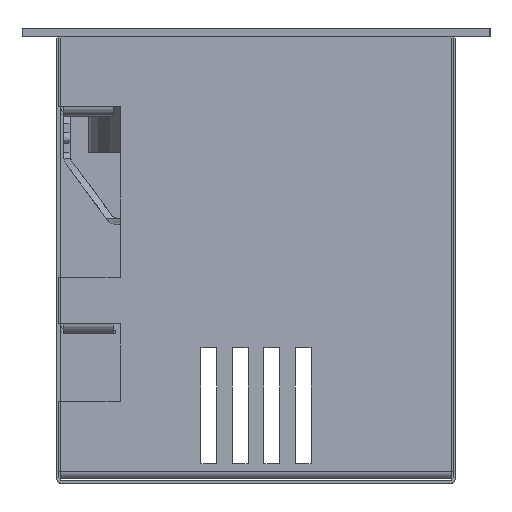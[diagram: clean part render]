
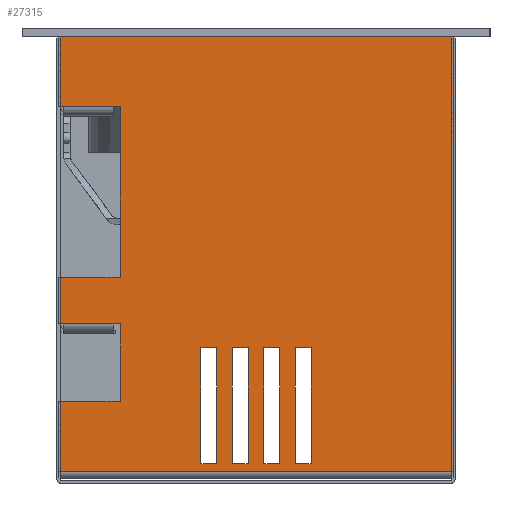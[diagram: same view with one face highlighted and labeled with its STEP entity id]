
A CAD part, left-side view. The second image highlights one B-rep face of the part: STEP entity #27315.
In plain terms, the highlighted planar face has unit normal (-1, 0, 0).
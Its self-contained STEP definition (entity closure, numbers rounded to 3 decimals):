
#264=FACE_BOUND('',#5128,.T.);
#265=FACE_BOUND('',#5129,.T.);
#266=FACE_BOUND('',#5130,.T.);
#267=FACE_BOUND('',#5131,.T.);
#1970=PLANE('',#30135);
#3463=FACE_OUTER_BOUND('',#5127,.T.);
#5127=EDGE_LOOP('',(#24978,#24979,#24980,#24981,#24982,#24983,#24984,#24985,
#24986,#24987,#24988,#24989));
#5128=EDGE_LOOP('',(#24990,#24991,#24992,#24993));
#5129=EDGE_LOOP('',(#24994,#24995,#24996,#24997));
#5130=EDGE_LOOP('',(#24998,#24999,#25000,#25001));
#5131=EDGE_LOOP('',(#25002,#25003,#25004,#25005));
#8367=LINE('',#53390,#10491);
#8369=LINE('',#53396,#10493);
#8370=LINE('',#53398,#10494);
#8371=LINE('',#53400,#10495);
#8372=LINE('',#53402,#10496);
#8373=LINE('',#53404,#10497);
#8374=LINE('',#53406,#10498);
#8375=LINE('',#53408,#10499);
#8376=LINE('',#53410,#10500);
#8377=LINE('',#53412,#10501);
#8378=LINE('',#53414,#10502);
#8379=LINE('',#53415,#10503);
#8380=LINE('',#53418,#10504);
#8381=LINE('',#53420,#10505);
#8382=LINE('',#53422,#10506);
#8383=LINE('',#53423,#10507);
#8384=LINE('',#53426,#10508);
#8385=LINE('',#53428,#10509);
#8386=LINE('',#53430,#10510);
#8387=LINE('',#53431,#10511);
#8388=LINE('',#53434,#10512);
#8389=LINE('',#53436,#10513);
#8390=LINE('',#53438,#10514);
#8391=LINE('',#53439,#10515);
#8392=LINE('',#53442,#10516);
#8393=LINE('',#53444,#10517);
#8394=LINE('',#53446,#10518);
#8395=LINE('',#53447,#10519);
#10491=VECTOR('',#37498,304.8);
#10493=VECTOR('',#37504,304.8);
#10494=VECTOR('',#37505,304.8);
#10495=VECTOR('',#37506,304.8);
#10496=VECTOR('',#37507,304.8);
#10497=VECTOR('',#37508,304.8);
#10498=VECTOR('',#37509,304.8);
#10499=VECTOR('',#37510,304.8);
#10500=VECTOR('',#37511,304.8);
#10501=VECTOR('',#37512,304.8);
#10502=VECTOR('',#37513,304.8);
#10503=VECTOR('',#37514,304.8);
#10504=VECTOR('',#37515,304.8);
#10505=VECTOR('',#37516,304.8);
#10506=VECTOR('',#37517,304.8);
#10507=VECTOR('',#37518,304.8);
#10508=VECTOR('',#37519,304.8);
#10509=VECTOR('',#37520,304.8);
#10510=VECTOR('',#37521,304.8);
#10511=VECTOR('',#37522,304.8);
#10512=VECTOR('',#37523,304.8);
#10513=VECTOR('',#37524,304.8);
#10514=VECTOR('',#37525,304.8);
#10515=VECTOR('',#37526,304.8);
#10516=VECTOR('',#37527,304.8);
#10517=VECTOR('',#37528,304.8);
#10518=VECTOR('',#37529,304.8);
#10519=VECTOR('',#37530,304.8);
#13144=VERTEX_POINT('',#53386);
#13146=VERTEX_POINT('',#53389);
#13148=VERTEX_POINT('',#53395);
#13149=VERTEX_POINT('',#53397);
#13150=VERTEX_POINT('',#53399);
#13151=VERTEX_POINT('',#53401);
#13152=VERTEX_POINT('',#53403);
#13153=VERTEX_POINT('',#53405);
#13154=VERTEX_POINT('',#53407);
#13155=VERTEX_POINT('',#53409);
#13156=VERTEX_POINT('',#53411);
#13157=VERTEX_POINT('',#53413);
#13158=VERTEX_POINT('',#53416);
#13159=VERTEX_POINT('',#53417);
#13160=VERTEX_POINT('',#53419);
#13161=VERTEX_POINT('',#53421);
#13162=VERTEX_POINT('',#53424);
#13163=VERTEX_POINT('',#53425);
#13164=VERTEX_POINT('',#53427);
#13165=VERTEX_POINT('',#53429);
#13166=VERTEX_POINT('',#53432);
#13167=VERTEX_POINT('',#53433);
#13168=VERTEX_POINT('',#53435);
#13169=VERTEX_POINT('',#53437);
#13170=VERTEX_POINT('',#53440);
#13171=VERTEX_POINT('',#53441);
#13172=VERTEX_POINT('',#53443);
#13173=VERTEX_POINT('',#53445);
#17112=EDGE_CURVE('',#13146,#13144,#8367,.T.);
#17115=EDGE_CURVE('',#13148,#13144,#8369,.T.);
#17116=EDGE_CURVE('',#13149,#13148,#8370,.T.);
#17117=EDGE_CURVE('',#13150,#13149,#8371,.T.);
#17118=EDGE_CURVE('',#13151,#13150,#8372,.T.);
#17119=EDGE_CURVE('',#13152,#13151,#8373,.T.);
#17120=EDGE_CURVE('',#13153,#13152,#8374,.T.);
#17121=EDGE_CURVE('',#13154,#13153,#8375,.T.);
#17122=EDGE_CURVE('',#13155,#13154,#8376,.T.);
#17123=EDGE_CURVE('',#13156,#13155,#8377,.T.);
#17124=EDGE_CURVE('',#13157,#13156,#8378,.T.);
#17125=EDGE_CURVE('',#13146,#13157,#8379,.T.);
#17126=EDGE_CURVE('',#13158,#13159,#8380,.T.);
#17127=EDGE_CURVE('',#13160,#13158,#8381,.T.);
#17128=EDGE_CURVE('',#13161,#13160,#8382,.T.);
#17129=EDGE_CURVE('',#13159,#13161,#8383,.T.);
#17130=EDGE_CURVE('',#13162,#13163,#8384,.T.);
#17131=EDGE_CURVE('',#13164,#13162,#8385,.T.);
#17132=EDGE_CURVE('',#13165,#13164,#8386,.T.);
#17133=EDGE_CURVE('',#13163,#13165,#8387,.T.);
#17134=EDGE_CURVE('',#13166,#13167,#8388,.T.);
#17135=EDGE_CURVE('',#13168,#13166,#8389,.T.);
#17136=EDGE_CURVE('',#13169,#13168,#8390,.T.);
#17137=EDGE_CURVE('',#13167,#13169,#8391,.T.);
#17138=EDGE_CURVE('',#13170,#13171,#8392,.T.);
#17139=EDGE_CURVE('',#13172,#13170,#8393,.T.);
#17140=EDGE_CURVE('',#13173,#13172,#8394,.T.);
#17141=EDGE_CURVE('',#13171,#13173,#8395,.T.);
#24978=ORIENTED_EDGE('',*,*,#17115,.F.);
#24979=ORIENTED_EDGE('',*,*,#17116,.F.);
#24980=ORIENTED_EDGE('',*,*,#17117,.F.);
#24981=ORIENTED_EDGE('',*,*,#17118,.F.);
#24982=ORIENTED_EDGE('',*,*,#17119,.F.);
#24983=ORIENTED_EDGE('',*,*,#17120,.F.);
#24984=ORIENTED_EDGE('',*,*,#17121,.F.);
#24985=ORIENTED_EDGE('',*,*,#17122,.F.);
#24986=ORIENTED_EDGE('',*,*,#17123,.F.);
#24987=ORIENTED_EDGE('',*,*,#17124,.F.);
#24988=ORIENTED_EDGE('',*,*,#17125,.F.);
#24989=ORIENTED_EDGE('',*,*,#17112,.T.);
#24990=ORIENTED_EDGE('',*,*,#17126,.F.);
#24991=ORIENTED_EDGE('',*,*,#17127,.F.);
#24992=ORIENTED_EDGE('',*,*,#17128,.F.);
#24993=ORIENTED_EDGE('',*,*,#17129,.F.);
#24994=ORIENTED_EDGE('',*,*,#17130,.F.);
#24995=ORIENTED_EDGE('',*,*,#17131,.F.);
#24996=ORIENTED_EDGE('',*,*,#17132,.F.);
#24997=ORIENTED_EDGE('',*,*,#17133,.F.);
#24998=ORIENTED_EDGE('',*,*,#17134,.F.);
#24999=ORIENTED_EDGE('',*,*,#17135,.F.);
#25000=ORIENTED_EDGE('',*,*,#17136,.F.);
#25001=ORIENTED_EDGE('',*,*,#17137,.F.);
#25002=ORIENTED_EDGE('',*,*,#17138,.F.);
#25003=ORIENTED_EDGE('',*,*,#17139,.F.);
#25004=ORIENTED_EDGE('',*,*,#17140,.F.);
#25005=ORIENTED_EDGE('',*,*,#17141,.F.);
#27315=ADVANCED_FACE('',(#3463,#264,#265,#266,#267),#1970,.T.);
#30135=AXIS2_PLACEMENT_3D('',#53394,#37502,#37503);
#37498=DIRECTION('',(0.,-1.,0.));
#37502=DIRECTION('center_axis',(-1.,0.,0.));
#37503=DIRECTION('ref_axis',(0.,1.,0.));
#37504=DIRECTION('',(0.,0.,-1.));
#37505=DIRECTION('',(0.,-1.,0.));
#37506=DIRECTION('',(0.,0.,1.));
#37507=DIRECTION('',(0.,1.,0.));
#37508=DIRECTION('',(0.,0.,1.));
#37509=DIRECTION('',(0.,-1.,0.));
#37510=DIRECTION('',(0.,0.,1.));
#37511=DIRECTION('',(0.,1.,0.));
#37512=DIRECTION('',(0.,0.,1.));
#37513=DIRECTION('',(0.,-1.,0.));
#37514=DIRECTION('',(0.,0.,1.));
#37515=DIRECTION('',(0.,0.,1.));
#37516=DIRECTION('',(0.,-1.,0.));
#37517=DIRECTION('',(0.,0.,-1.));
#37518=DIRECTION('',(0.,1.,0.));
#37519=DIRECTION('',(0.,0.,1.));
#37520=DIRECTION('',(0.,-1.,0.));
#37521=DIRECTION('',(0.,0.,-1.));
#37522=DIRECTION('',(0.,1.,0.));
#37523=DIRECTION('',(0.,0.,1.));
#37524=DIRECTION('',(0.,-1.,0.));
#37525=DIRECTION('',(0.,0.,-1.));
#37526=DIRECTION('',(0.,1.,0.));
#37527=DIRECTION('',(0.,0.,1.));
#37528=DIRECTION('',(0.,-1.,0.));
#37529=DIRECTION('',(0.,0.,-1.));
#37530=DIRECTION('',(0.,1.,0.));
#53386=CARTESIAN_POINT('',(-103.8,-47.7,-105.555));
#53389=CARTESIAN_POINT('',(-103.8,47.7,-105.555));
#53390=CARTESIAN_POINT('',(-103.8,47.7,-105.555));
#53394=CARTESIAN_POINT('Origin',(-103.8,-47.7,-0.625));
#53395=CARTESIAN_POINT('',(-103.8,-47.7,-0.625));
#53396=CARTESIAN_POINT('',(-103.8,-47.7,-0.625));
#53397=CARTESIAN_POINT('',(-103.8,47.7,-0.625));
#53398=CARTESIAN_POINT('',(-103.8,47.7,-0.625));
#53399=CARTESIAN_POINT('',(-103.8,47.7,-17.467));
#53400=CARTESIAN_POINT('',(-103.8,47.7,-17.467));
#53401=CARTESIAN_POINT('',(-103.8,32.8,-17.467));
#53402=CARTESIAN_POINT('',(-103.8,32.8,-17.467));
#53403=CARTESIAN_POINT('',(-103.8,32.8,-58.625));
#53404=CARTESIAN_POINT('',(-103.8,32.8,-58.625));
#53405=CARTESIAN_POINT('',(-103.8,47.7,-58.625));
#53406=CARTESIAN_POINT('',(-103.8,47.7,-58.625));
#53407=CARTESIAN_POINT('',(-103.8,47.7,-69.882));
#53408=CARTESIAN_POINT('',(-103.8,47.7,-69.882));
#53409=CARTESIAN_POINT('',(-103.8,32.8,-69.882));
#53410=CARTESIAN_POINT('',(-103.8,32.8,-69.882));
#53411=CARTESIAN_POINT('',(-103.8,32.8,-88.625));
#53412=CARTESIAN_POINT('',(-103.8,32.8,-88.625));
#53413=CARTESIAN_POINT('',(-103.8,47.7,-88.625));
#53414=CARTESIAN_POINT('',(-103.8,47.7,-88.625));
#53415=CARTESIAN_POINT('',(-103.8,47.7,-105.555));
#53416=CARTESIAN_POINT('',(-103.8,9.5,-103.638));
#53417=CARTESIAN_POINT('',(-103.8,9.5,-75.638));
#53418=CARTESIAN_POINT('',(-103.8,9.5,-103.638));
#53419=CARTESIAN_POINT('',(-103.8,13.3,-103.638));
#53420=CARTESIAN_POINT('',(-103.8,13.3,-103.638));
#53421=CARTESIAN_POINT('',(-103.8,13.3,-75.638));
#53422=CARTESIAN_POINT('',(-103.8,13.3,-75.638));
#53423=CARTESIAN_POINT('',(-103.8,9.5,-75.638));
#53424=CARTESIAN_POINT('',(-103.8,1.9,-103.638));
#53425=CARTESIAN_POINT('',(-103.8,1.9,-75.638));
#53426=CARTESIAN_POINT('',(-103.8,1.9,-103.638));
#53427=CARTESIAN_POINT('',(-103.8,5.7,-103.638));
#53428=CARTESIAN_POINT('',(-103.8,5.7,-103.638));
#53429=CARTESIAN_POINT('',(-103.8,5.7,-75.638));
#53430=CARTESIAN_POINT('',(-103.8,5.7,-75.638));
#53431=CARTESIAN_POINT('',(-103.8,1.9,-75.638));
#53432=CARTESIAN_POINT('',(-103.8,-5.7,-103.638));
#53433=CARTESIAN_POINT('',(-103.8,-5.7,-75.638));
#53434=CARTESIAN_POINT('',(-103.8,-5.7,-103.638));
#53435=CARTESIAN_POINT('',(-103.8,-1.9,-103.638));
#53436=CARTESIAN_POINT('',(-103.8,-1.9,-103.638));
#53437=CARTESIAN_POINT('',(-103.8,-1.9,-75.638));
#53438=CARTESIAN_POINT('',(-103.8,-1.9,-75.638));
#53439=CARTESIAN_POINT('',(-103.8,-5.7,-75.638));
#53440=CARTESIAN_POINT('',(-103.8,-13.3,-103.638));
#53441=CARTESIAN_POINT('',(-103.8,-13.3,-75.638));
#53442=CARTESIAN_POINT('',(-103.8,-13.3,-103.638));
#53443=CARTESIAN_POINT('',(-103.8,-9.5,-103.638));
#53444=CARTESIAN_POINT('',(-103.8,-9.5,-103.638));
#53445=CARTESIAN_POINT('',(-103.8,-9.5,-75.638));
#53446=CARTESIAN_POINT('',(-103.8,-9.5,-75.638));
#53447=CARTESIAN_POINT('',(-103.8,-13.3,-75.638));
